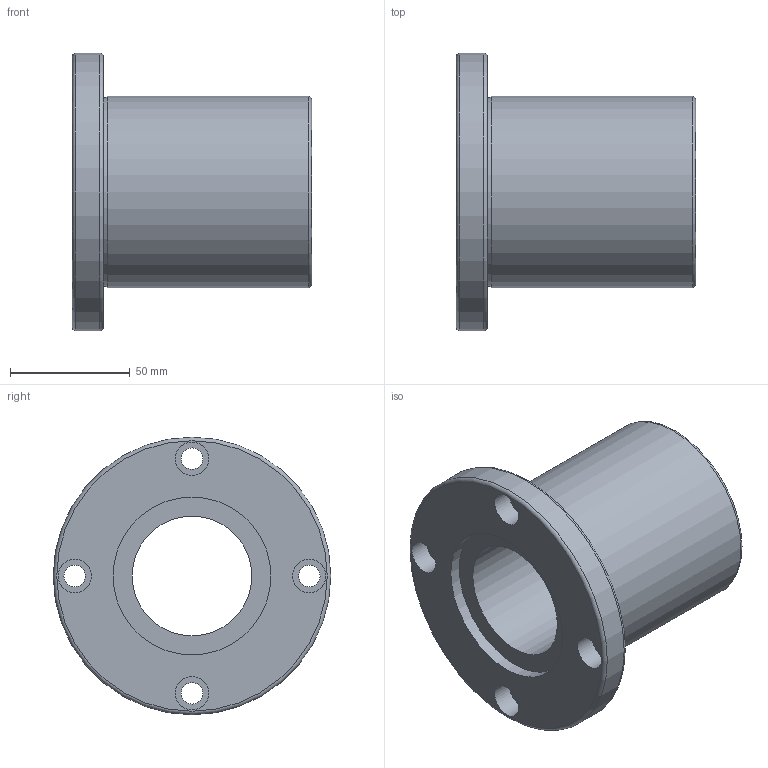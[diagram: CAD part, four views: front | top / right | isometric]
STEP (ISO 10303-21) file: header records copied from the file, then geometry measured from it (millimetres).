
FILE_DESCRIPTION( ( 'Unknown' ), '1' );
FILE_NAME( 'D:/累诀/己绕皋墨飘肺葱胶/11-04-06_档搁累己/01_府聪绢何教/LMF/LMF 50.stp', 'Unknown', ( 'Unknown' ), ( 'Unknown' ), 'PSStep 11.0', 'Unknown', ' ' );
FILE_SCHEMA( ( 'AUTOMOTIVE_DESIGN { 1 0 10303 214 1 1 1 1 }' ) );
Length unit declared in the file: millimetre
Products named in the file (1): 1
Bounding box: 100 x 116 x 116 mm (x, y, z)
Volume: 356698.6 mm3; surface area: 61135.9 mm2
Topology: 1 solids, 1 shells, 27 faces, 52 edges, 35 vertices
Faces by surface type: cylinder 14, plane 10, torus 3
Full cylindrical faces by diameter (mm): 9 x4, 14 x4, 50 x1, 66 x2, 79 x1, 80 x1, 116 x1
Entity records: 836 total; most frequent: DIRECTION 118, CARTESIAN_POINT 90, EDGE_LOOP 62, ORIENTED_EDGE 62, AXIS2_PLACEMENT_3D 59, FACE_OUTER_BOUND 44, EDGE_CURVE 31, VERTEX_POINT 31
